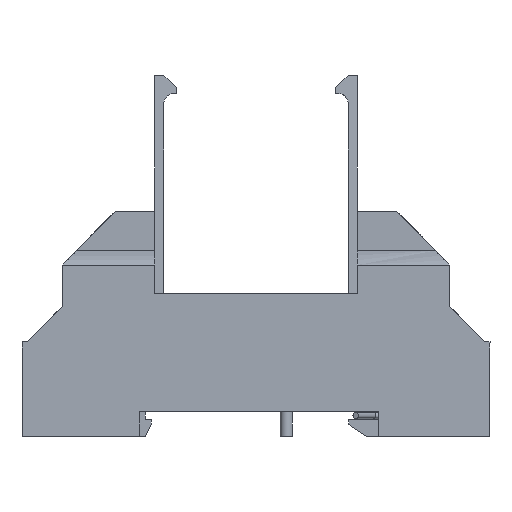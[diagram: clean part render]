
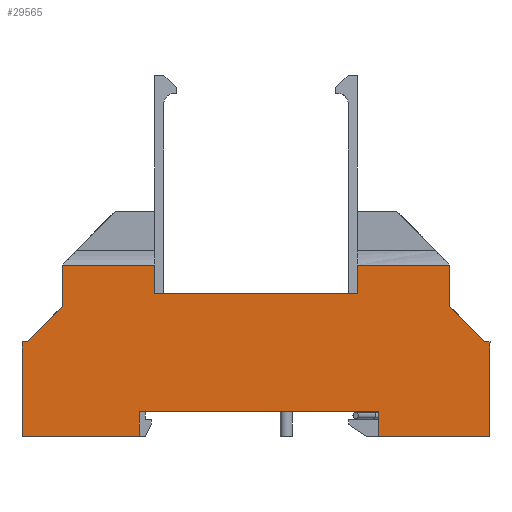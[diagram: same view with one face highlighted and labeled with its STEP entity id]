
A CAD part, front view. The second image highlights one B-rep face of the part: STEP entity #29565.
In plain terms, the highlighted free-form (B-spline) face has degree [1, 1] with [2, 2] control points.
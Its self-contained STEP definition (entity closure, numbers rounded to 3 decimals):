
#26844=CARTESIAN_POINT('',(-26.411,-0.052,-34.));
#26845=VERTEX_POINT('',#26844);
#26852=CARTESIAN_POINT('',(-66.011,-0.052,-34.));
#26853=VERTEX_POINT('',#26852);
#26854=CARTESIAN_POINT('',(-26.411,-0.052,-34.));
#26855=DIRECTION('',(-1.0,0.0,0.0));
#26856=VECTOR('',#26855,39.6);
#26857=LINE('',#26854,#26856);
#26858=EDGE_CURVE('',#26845,#26853,#26857,.T.);
#27662=CARTESIAN_POINT('',(-63.411,-0.052,-14.5));
#27663=VERTEX_POINT('',#27662);
#27670=CARTESIAN_POINT('',(-30.011,-0.052,-14.5));
#27671=VERTEX_POINT('',#27670);
#27672=CARTESIAN_POINT('',(-63.411,-0.052,-14.5));
#27673=DIRECTION('',(1.0,0.0,0.0));
#27674=VECTOR('',#27673,33.4);
#27675=LINE('',#27672,#27674);
#27676=EDGE_CURVE('',#27663,#27671,#27675,.T.);
#28421=CARTESIAN_POINT('',(-8.061,-0.052,-22.5));
#28422=VERTEX_POINT('',#28421);
#28423=CARTESIAN_POINT('',(-8.061,-0.052,-38.1));
#28424=VERTEX_POINT('',#28423);
#28425=CARTESIAN_POINT('',(-8.061,-0.052,-38.1));
#28426=DIRECTION('',(0.,0.,1.0));
#28427=VECTOR('',#28426,15.6);
#28428=LINE('',#28425,#28427);
#28429=EDGE_CURVE('',#28422,#28424,#28428,.F.);
#28454=CARTESIAN_POINT('',(-63.411,-0.052,-9.8));
#28455=VERTEX_POINT('',#28454);
#28471=CARTESIAN_POINT('',(-78.711,-0.052,-9.8));
#28472=VERTEX_POINT('',#28471);
#28480=CARTESIAN_POINT('',(-63.411,-0.052,-9.8));
#28481=DIRECTION('',(-1.0,0.0,0.0));
#28482=VECTOR('',#28481,15.3);
#28483=LINE('',#28480,#28482);
#28484=EDGE_CURVE('',#28455,#28472,#28483,.T.);
#29192=CARTESIAN_POINT('',(-30.011,-0.052,-9.8));
#29193=VERTEX_POINT('',#29192);
#29201=CARTESIAN_POINT('',(-14.711,-0.052,-9.8));
#29202=VERTEX_POINT('',#29201);
#29203=CARTESIAN_POINT('',(-30.011,-0.052,-9.8));
#29204=DIRECTION('',(1.0,0.0,0.0));
#29205=VECTOR('',#29204,15.3);
#29206=LINE('',#29203,#29205);
#29207=EDGE_CURVE('',#29193,#29202,#29206,.T.);
#29428=CARTESIAN_POINT('',(-63.411,-0.052,-14.5));
#29429=DIRECTION('',(0.,0.,1.0));
#29430=VECTOR('',#29429,4.7);
#29431=LINE('',#29428,#29430);
#29432=EDGE_CURVE('',#28455,#27663,#29431,.F.);
#29447=CARTESIAN_POINT('',(-78.711,-0.052,-16.6));
#29448=VERTEX_POINT('',#29447);
#29449=CARTESIAN_POINT('',(-84.511,-0.052,-22.5));
#29450=VERTEX_POINT('',#29449);
#29451=CARTESIAN_POINT('',(-78.711,-0.052,-16.6));
#29452=DIRECTION('',(-0.701,0.,-0.713));
#29453=VECTOR('',#29452,8.273);
#29454=LINE('',#29451,#29453);
#29455=EDGE_CURVE('',#29448,#29450,#29454,.T.);
#29473=CARTESIAN_POINT('',(-8.061,-0.052,-9.8));
#29474=CARTESIAN_POINT('',(-8.061,-0.052,-38.1));
#29475=CARTESIAN_POINT('',(-85.361,-0.052,-9.8));
#29476=CARTESIAN_POINT('',(-85.361,-0.052,-38.1));
#29477=B_SPLINE_SURFACE_WITH_KNOTS('',1,1,((#29473,#29475),(#29474,#29476)),.UNSPECIFIED.,.F.,.F.,.U.,(2,2),(2,2),(0.0,28.3),(0.0,77.3),.UNSPECIFIED.);
#29478=CARTESIAN_POINT('',(-78.711,-0.052,-16.6));
#29479=DIRECTION('',(0.,0.,1.0));
#29480=VECTOR('',#29479,6.8);
#29481=LINE('',#29478,#29480);
#29482=EDGE_CURVE('',#29448,#28472,#29481,.T.);
#29483=ORIENTED_EDGE('',*,*,#29482,.F.);
#29484=ORIENTED_EDGE('',*,*,#29455,.T.);
#29485=CARTESIAN_POINT('',(-85.361,-0.052,-22.5));
#29486=VERTEX_POINT('',#29485);
#29487=CARTESIAN_POINT('',(-84.511,-0.052,-22.5));
#29488=DIRECTION('',(-1.0,0.,0.));
#29489=VECTOR('',#29488,0.85);
#29490=LINE('',#29487,#29489);
#29491=EDGE_CURVE('',#29450,#29486,#29490,.T.);
#29492=ORIENTED_EDGE('',*,*,#29491,.T.);
#29493=CARTESIAN_POINT('',(-85.361,-0.052,-38.1));
#29494=VERTEX_POINT('',#29493);
#29495=CARTESIAN_POINT('',(-85.361,-0.052,-22.5));
#29496=DIRECTION('',(0.0,0.0,-1.0));
#29497=VECTOR('',#29496,15.6);
#29498=LINE('',#29495,#29497);
#29499=EDGE_CURVE('',#29494,#29486,#29498,.F.);
#29500=ORIENTED_EDGE('',*,*,#29499,.F.);
#29501=CARTESIAN_POINT('',(-66.011,-0.052,-38.1));
#29502=VERTEX_POINT('',#29501);
#29503=CARTESIAN_POINT('',(-85.361,-0.052,-38.1));
#29504=DIRECTION('',(1.0,0.0,0.0));
#29505=VECTOR('',#29504,19.35);
#29506=LINE('',#29503,#29505);
#29507=EDGE_CURVE('',#29502,#29494,#29506,.F.);
#29508=ORIENTED_EDGE('',*,*,#29507,.F.);
#29509=CARTESIAN_POINT('',(-66.011,-0.052,-38.1));
#29510=DIRECTION('',(0.0,0.0,1.0));
#29511=VECTOR('',#29510,4.1);
#29512=LINE('',#29509,#29511);
#29513=EDGE_CURVE('',#29502,#26853,#29512,.T.);
#29514=ORIENTED_EDGE('',*,*,#29513,.T.);
#29515=ORIENTED_EDGE('',*,*,#26858,.F.);
#29516=CARTESIAN_POINT('',(-26.411,-0.052,-38.1));
#29517=VERTEX_POINT('',#29516);
#29518=CARTESIAN_POINT('',(-26.411,-0.052,-38.1));
#29519=DIRECTION('',(0.0,0.0,1.0));
#29520=VECTOR('',#29519,4.1);
#29521=LINE('',#29518,#29520);
#29522=EDGE_CURVE('',#29517,#26845,#29521,.T.);
#29523=ORIENTED_EDGE('',*,*,#29522,.F.);
#29524=CARTESIAN_POINT('',(-26.411,-0.052,-38.1));
#29525=DIRECTION('',(1.0,0.0,0.0));
#29526=VECTOR('',#29525,18.35);
#29527=LINE('',#29524,#29526);
#29528=EDGE_CURVE('',#28424,#29517,#29527,.F.);
#29529=ORIENTED_EDGE('',*,*,#29528,.F.);
#29530=ORIENTED_EDGE('',*,*,#28429,.F.);
#29531=CARTESIAN_POINT('',(-8.911,-0.052,-22.5));
#29532=VERTEX_POINT('',#29531);
#29533=CARTESIAN_POINT('',(-8.061,-0.052,-22.5));
#29534=DIRECTION('',(-1.0,0.,0.));
#29535=VECTOR('',#29534,0.85);
#29536=LINE('',#29533,#29535);
#29537=EDGE_CURVE('',#28422,#29532,#29536,.T.);
#29538=ORIENTED_EDGE('',*,*,#29537,.T.);
#29539=CARTESIAN_POINT('',(-14.711,-0.052,-16.6));
#29540=VERTEX_POINT('',#29539);
#29541=CARTESIAN_POINT('',(-8.911,-0.052,-22.5));
#29542=DIRECTION('',(-0.701,0.,0.713));
#29543=VECTOR('',#29542,8.273);
#29544=LINE('',#29541,#29543);
#29545=EDGE_CURVE('',#29532,#29540,#29544,.T.);
#29546=ORIENTED_EDGE('',*,*,#29545,.T.);
#29547=CARTESIAN_POINT('',(-14.711,-0.052,-16.6));
#29548=DIRECTION('',(0.,0.,1.0));
#29549=VECTOR('',#29548,6.8);
#29550=LINE('',#29547,#29549);
#29551=EDGE_CURVE('',#29202,#29540,#29550,.F.);
#29552=ORIENTED_EDGE('',*,*,#29551,.F.);
#29553=ORIENTED_EDGE('',*,*,#29207,.F.);
#29554=CARTESIAN_POINT('',(-30.011,-0.052,-9.8));
#29555=DIRECTION('',(0.,0.,-1.0));
#29556=VECTOR('',#29555,4.7);
#29557=LINE('',#29554,#29556);
#29558=EDGE_CURVE('',#27671,#29193,#29557,.F.);
#29559=ORIENTED_EDGE('',*,*,#29558,.F.);
#29560=ORIENTED_EDGE('',*,*,#27676,.F.);
#29561=ORIENTED_EDGE('',*,*,#29432,.F.);
#29562=ORIENTED_EDGE('',*,*,#28484,.T.);
#29563=EDGE_LOOP('',(#29483,#29484,#29492,#29500,#29508,#29514,#29515,#29523,#29529,#29530,#29538,#29546,#29552,#29553,#29559,#29560,#29561,#29562));
#29564=FACE_OUTER_BOUND('',#29563,.T.);
#29565=ADVANCED_FACE('',(#29564),#29477,.F.);
